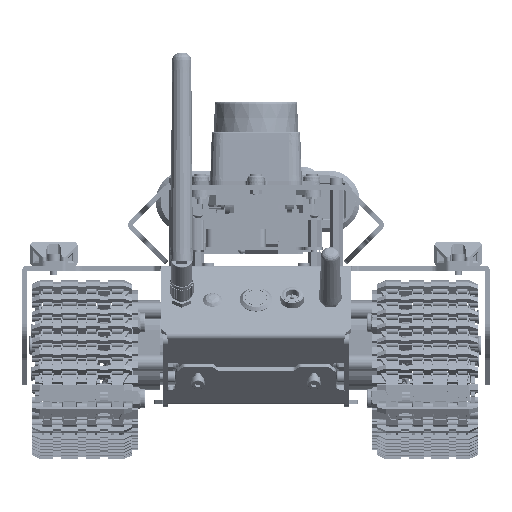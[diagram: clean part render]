
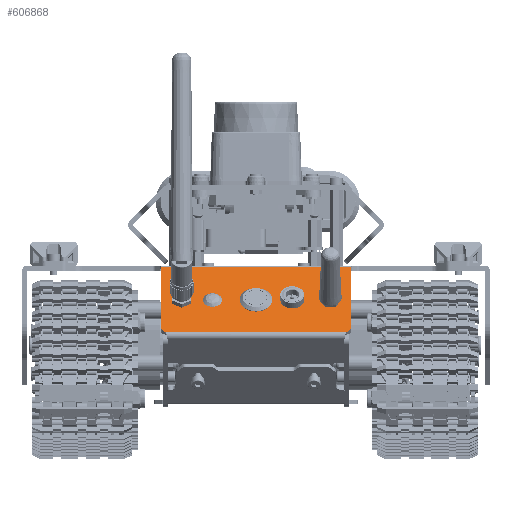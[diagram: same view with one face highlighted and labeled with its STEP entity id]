
A CAD part, left-side view. The second image highlights one B-rep face of the part: STEP entity #606868.
In plain terms, the highlighted planar face has unit normal (-0.707, 0, 0.707).
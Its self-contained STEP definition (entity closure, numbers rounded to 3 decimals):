
#11346=FACE_BOUND('',#71167,.T.);
#11347=FACE_BOUND('',#71168,.T.);
#11348=FACE_BOUND('',#71169,.T.);
#11349=FACE_BOUND('',#71170,.T.);
#11350=FACE_BOUND('',#71171,.T.);
#17163=PLANE('',#640645);
#39705=FACE_OUTER_BOUND('',#71166,.T.);
#71166=EDGE_LOOP('',(#420474,#420475,#420476,#420477,#420478,#420479,#420480,
#420481));
#71167=EDGE_LOOP('',(#420482,#420483));
#71168=EDGE_LOOP('',(#420484));
#71169=EDGE_LOOP('',(#420485));
#71170=EDGE_LOOP('',(#420486,#420487));
#71171=EDGE_LOOP('',(#420488,#420489));
#108465=LINE('',#860482,#180549);
#108466=LINE('',#860485,#180550);
#108523=LINE('',#860743,#180607);
#108524=LINE('',#860745,#180608);
#108525=LINE('',#860747,#180609);
#108526=LINE('',#860750,#180610);
#108527=LINE('',#860753,#180611);
#108528=LINE('',#860762,#180612);
#108529=LINE('',#860765,#180613);
#180549=VECTOR('',#690378,10.);
#180550=VECTOR('',#690381,10.);
#180607=VECTOR('',#690534,10.);
#180608=VECTOR('',#690535,10.);
#180609=VECTOR('',#690536,10.);
#180610=VECTOR('',#690539,10.);
#180611=VECTOR('',#690540,10.);
#180612=VECTOR('',#690549,10.);
#180613=VECTOR('',#690550,10.);
#252634=CIRCLE('',#640646,1.5);
#252635=CIRCLE('',#640647,1.5);
#252636=CIRCLE('',#640648,3.3);
#252637=CIRCLE('',#640649,4.);
#252638=CIRCLE('',#640650,6.);
#252639=CIRCLE('',#640651,3.3);
#252640=CIRCLE('',#640652,3.3);
#269436=VERTEX_POINT('',#860475);
#269439=VERTEX_POINT('',#860480);
#269440=VERTEX_POINT('',#860484);
#269524=VERTEX_POINT('',#860740);
#269525=VERTEX_POINT('',#860742);
#269526=VERTEX_POINT('',#860744);
#269527=VERTEX_POINT('',#860746);
#269528=VERTEX_POINT('',#860748);
#269529=VERTEX_POINT('',#860751);
#269530=VERTEX_POINT('',#860752);
#269531=VERTEX_POINT('',#860755);
#269532=VERTEX_POINT('',#860757);
#269533=VERTEX_POINT('',#860759);
#269534=VERTEX_POINT('',#860760);
#269535=VERTEX_POINT('',#860763);
#269536=VERTEX_POINT('',#860764);
#328237=EDGE_CURVE('',#269436,#269439,#108465,.T.);
#328238=EDGE_CURVE('',#269440,#269436,#108466,.T.);
#328339=EDGE_CURVE('',#269439,#269524,#252634,.T.);
#328340=EDGE_CURVE('',#269524,#269525,#108523,.T.);
#328341=EDGE_CURVE('',#269526,#269525,#108524,.T.);
#328342=EDGE_CURVE('',#269526,#269527,#108525,.T.);
#328343=EDGE_CURVE('',#269527,#269528,#252635,.T.);
#328344=EDGE_CURVE('',#269528,#269440,#108526,.T.);
#328345=EDGE_CURVE('',#269529,#269530,#108527,.T.);
#328346=EDGE_CURVE('',#269530,#269529,#252636,.T.);
#328347=EDGE_CURVE('',#269531,#269531,#252637,.T.);
#328348=EDGE_CURVE('',#269532,#269532,#252638,.T.);
#328349=EDGE_CURVE('',#269533,#269534,#252639,.T.);
#328350=EDGE_CURVE('',#269534,#269533,#108528,.T.);
#328351=EDGE_CURVE('',#269535,#269536,#108529,.T.);
#328352=EDGE_CURVE('',#269536,#269535,#252640,.T.);
#420474=ORIENTED_EDGE('',*,*,#328238,.T.);
#420475=ORIENTED_EDGE('',*,*,#328237,.T.);
#420476=ORIENTED_EDGE('',*,*,#328339,.T.);
#420477=ORIENTED_EDGE('',*,*,#328340,.T.);
#420478=ORIENTED_EDGE('',*,*,#328341,.F.);
#420479=ORIENTED_EDGE('',*,*,#328342,.T.);
#420480=ORIENTED_EDGE('',*,*,#328343,.T.);
#420481=ORIENTED_EDGE('',*,*,#328344,.T.);
#420482=ORIENTED_EDGE('',*,*,#328345,.T.);
#420483=ORIENTED_EDGE('',*,*,#328346,.T.);
#420484=ORIENTED_EDGE('',*,*,#328347,.T.);
#420485=ORIENTED_EDGE('',*,*,#328348,.T.);
#420486=ORIENTED_EDGE('',*,*,#328349,.T.);
#420487=ORIENTED_EDGE('',*,*,#328350,.T.);
#420488=ORIENTED_EDGE('',*,*,#328351,.T.);
#420489=ORIENTED_EDGE('',*,*,#328352,.T.);
#606868=ADVANCED_FACE('',(#39705,#11346,#11347,#11348,#11349,#11350),#17163,
 .T.);
#640645=AXIS2_PLACEMENT_3D('',#860739,#690530,#690531);
#640646=AXIS2_PLACEMENT_3D('',#860741,#690532,#690533);
#640647=AXIS2_PLACEMENT_3D('',#860749,#690537,#690538);
#640648=AXIS2_PLACEMENT_3D('',#860754,#690541,#690542);
#640649=AXIS2_PLACEMENT_3D('',#860756,#690543,#690544);
#640650=AXIS2_PLACEMENT_3D('',#860758,#690545,#690546);
#640651=AXIS2_PLACEMENT_3D('',#860761,#690547,#690548);
#640652=AXIS2_PLACEMENT_3D('',#860766,#690551,#690552);
#690378=DIRECTION('',(-0.707,0.,-0.707));
#690381=DIRECTION('',(0.,1.,0.));
#690530=DIRECTION('center_axis',(-0.707,0.,0.707));
#690531=DIRECTION('ref_axis',(0.707,0.,0.707));
#690532=DIRECTION('center_axis',(-0.707,0.,0.707));
#690533=DIRECTION('ref_axis',(0.,1.,0.));
#690534=DIRECTION('',(-0.5,-0.707,-0.5));
#690535=DIRECTION('',(0.,1.,0.));
#690536=DIRECTION('',(0.5,-0.707,0.5));
#690537=DIRECTION('center_axis',(-0.707,0.,0.707));
#690538=DIRECTION('ref_axis',(-0.5,-0.707,-0.5));
#690539=DIRECTION('',(0.707,0.,0.707));
#690540=DIRECTION('',(0.,1.,0.));
#690541=DIRECTION('center_axis',(0.707,0.,-0.707));
#690542=DIRECTION('ref_axis',(-0.557,-0.616,-0.557));
#690543=DIRECTION('center_axis',(0.707,0.,-0.707));
#690544=DIRECTION('ref_axis',(0.707,0.,0.707));
#690545=DIRECTION('center_axis',(0.707,0.,-0.707));
#690546=DIRECTION('ref_axis',(0.707,0.,0.707));
#690547=DIRECTION('center_axis',(0.707,0.,-0.707));
#690548=DIRECTION('ref_axis',(-0.557,-0.616,-0.557));
#690549=DIRECTION('',(0.,1.,0.));
#690550=DIRECTION('',(0.,1.,0.));
#690551=DIRECTION('center_axis',(0.707,0.,-0.707));
#690552=DIRECTION('ref_axis',(-0.557,-0.616,-0.557));
#860475=CARTESIAN_POINT('',(800.186,931.386,1.411));
#860480=CARTESIAN_POINT('',(774.569,931.386,-24.207));
#860482=CARTESIAN_POINT('',(800.434,931.386,1.658));
#860484=CARTESIAN_POINT('',(800.186,851.586,1.411));
#860485=CARTESIAN_POINT('',(800.186,445.743,1.411));
#860739=CARTESIAN_POINT('Origin',(851.098,891.486,52.323));
#860740=CARTESIAN_POINT('',(773.819,930.947,-24.957));
#860741=CARTESIAN_POINT('Origin',(774.569,929.886,-24.207));
#860742=CARTESIAN_POINT('',(772.856,929.585,-25.919));
#860743=CARTESIAN_POINT('',(772.361,928.886,-26.414));
#860744=CARTESIAN_POINT('',(772.856,853.387,-25.919));
#860745=CARTESIAN_POINT('',(772.856,445.743,-25.919));
#860746=CARTESIAN_POINT('',(773.819,852.026,-24.957));
#860747=CARTESIAN_POINT('',(772.361,854.086,-26.414));
#860748=CARTESIAN_POINT('',(774.569,851.586,-24.207));
#860749=CARTESIAN_POINT('Origin',(774.569,853.086,-24.207));
#860750=CARTESIAN_POINT('',(800.434,851.586,1.658));
#860751=CARTESIAN_POINT('',(784.559,920.714,-14.216));
#860752=CARTESIAN_POINT('',(784.559,924.779,-14.216));
#860753=CARTESIAN_POINT('',(784.559,924.779,-14.216));
#860754=CARTESIAN_POINT('Origin',(786.397,922.746,-12.378));
#860755=CARTESIAN_POINT('',(783.569,876.246,-15.206));
#860756=CARTESIAN_POINT('Origin',(786.397,876.246,-12.378));
#860757=CARTESIAN_POINT('',(782.155,891.486,-16.62));
#860758=CARTESIAN_POINT('Origin',(786.397,891.486,-12.378));
#860759=CARTESIAN_POINT('',(784.559,862.259,-14.216));
#860760=CARTESIAN_POINT('',(784.559,858.194,-14.216));
#860761=CARTESIAN_POINT('Origin',(786.397,860.226,-12.378));
#860762=CARTESIAN_POINT('',(784.559,858.194,-14.216));
#860763=CARTESIAN_POINT('',(784.559,907.754,-14.216));
#860764=CARTESIAN_POINT('',(784.559,911.819,-14.216));
#860765=CARTESIAN_POINT('',(784.559,911.819,-14.216));
#860766=CARTESIAN_POINT('Origin',(786.397,909.786,-12.378));
